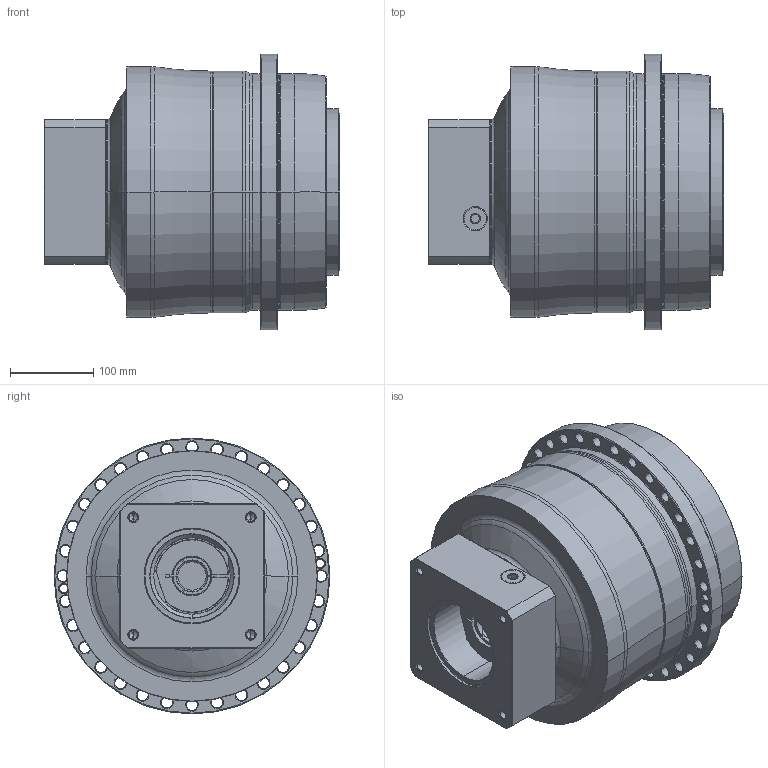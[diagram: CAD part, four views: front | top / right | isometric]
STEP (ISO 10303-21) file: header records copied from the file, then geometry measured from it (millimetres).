
FILE_DESCRIPTION((''),'2;1');
FILE_NAME('AP285_2ST_38-P0409910201_ASM','2018-05-30T',('d01226'),(''),'PRO/ENGINEER BY PARAMETRIC TECHNOLOGY CORPORATION, 2008410','PRO/ENGINEER BY PARAMETRIC TECHNOLOGY CORPORATION, 2008410','');
FILE_SCHEMA(('CONFIG_CONTROL_DESIGN'));
Length unit declared in the file: millimetre
Products named in the file (9): P0278801003; P0359801103; P1317810101; P0503900012; P0912751001; P1211800001; P0409910201; 21711422019; AP285_2ST_38-P0409910201_ASM
Assembly tree (8 placements, depth 2):
  AP285_2ST_38-P0409910201_ASM
    P0278801003
    P0359801103
    P1317810101
    P0503900012
    P0912751001
    P1211800001
    P0409910201
    21711422019
Bounding box: 355.5 x 332 x 332 mm (x, y, z)
Volume: 17536119.8 mm3; surface area: 1021935.1 mm2
Topology: 9 solids, 32 shells, 678 faces, 1570 edges, 954 vertices
Faces by surface type: cylinder 272, cone 218, plane 99, torus 73, bspline 16
Entity records: 24319 total; most frequent: CARTESIAN_POINT 8051, DIRECTION 3747, ORIENTED_EDGE 3030, AXIS2_PLACEMENT_3D 1596, EDGE_CURVE 1562, VERTEX_POINT 954, CIRCLE 905, EDGE_LOOP 838
